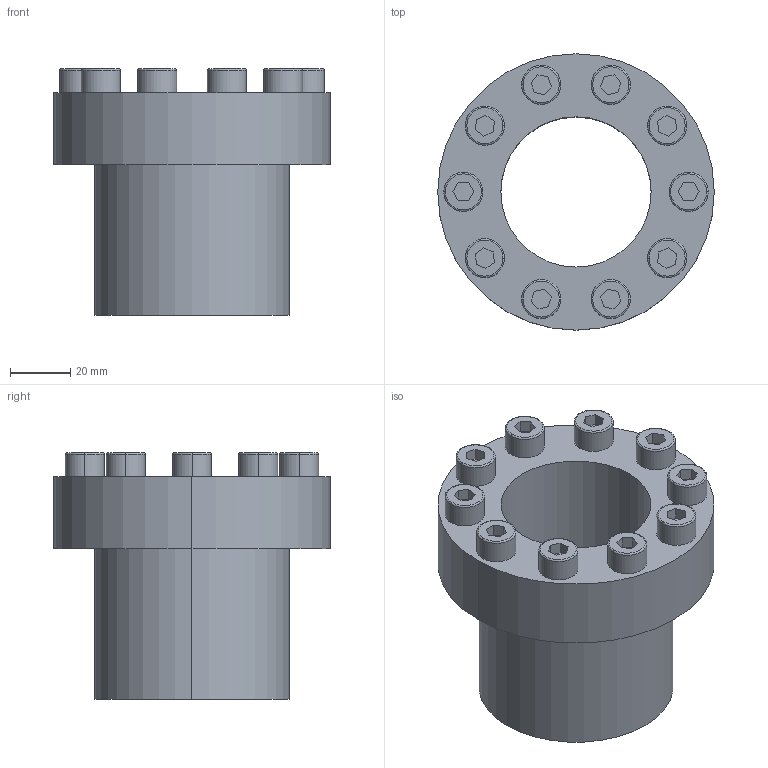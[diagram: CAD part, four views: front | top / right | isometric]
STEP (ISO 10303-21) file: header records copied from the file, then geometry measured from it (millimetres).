
FILE_DESCRIPTION (( 'STEP AP203' ), '1' );
FILE_NAME ('PL-C 50-65.STEP', '2021-10-22T08:45:31', ( '' ), ( '' ), 'SwSTEP 2.0', 'SolidWorks 2018', '' );
FILE_SCHEMA (( 'CONFIG_CONTROL_DESIGN' ));
Length unit declared in the file: millimetre
Products named in the file (1): PL-C 50-65
Bounding box: 92 x 92 x 82 mm (x, y, z)
Volume: 188489.9 mm3; surface area: 42117.4 mm2
Topology: 1 solids, 1 shells, 129 faces, 298 edges, 192 vertices
Faces by surface type: plane 83, cylinder 26, torus 20
Entity records: 3725 total; most frequent: DIRECTION 650, CARTESIAN_POINT 620, ORIENTED_EDGE 596, EDGE_CURVE 298, AXIS2_PLACEMENT_3D 222, LINE 206, VECTOR 206, VERTEX_POINT 192
